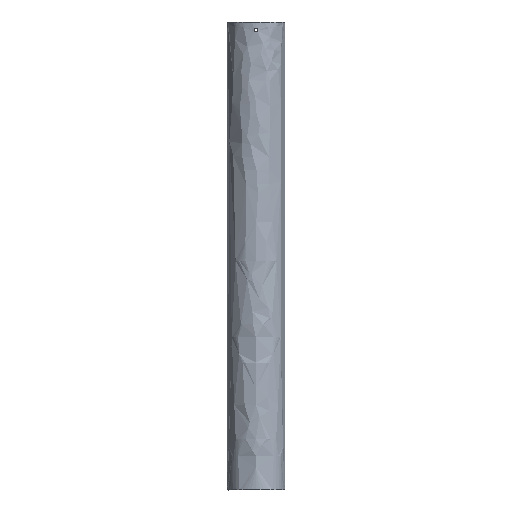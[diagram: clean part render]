
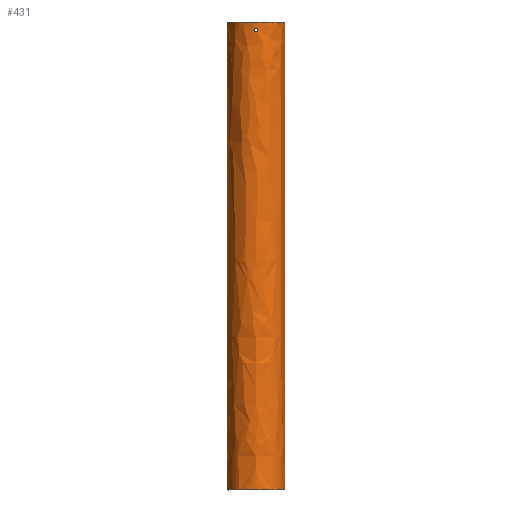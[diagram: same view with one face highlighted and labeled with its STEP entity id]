
A CAD part, left-side view. The second image highlights one B-rep face of the part: STEP entity #431.
In plain terms, the highlighted free-form (B-spline) face has degree [2, 1] with [9, 2] control points.
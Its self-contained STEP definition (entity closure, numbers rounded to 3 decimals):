
#47=FACE_BOUND('',#852,.T.);
#90=B_SPLINE_CURVE_WITH_KNOTS('',1,(#4169,#4170),.UNSPECIFIED.,.F.,.F.,
(2,2),(0.,450.),.UNSPECIFIED.);
#91=B_SPLINE_CURVE_WITH_KNOTS('',1,(#4176,#4177),.UNSPECIFIED.,.F.,.F.,
(2,2),(0.,450.),.UNSPECIFIED.);
#92=B_SPLINE_CURVE_WITH_KNOTS('',3,(#4188,#4189,#4190,#4191,#4192,#4193,
#4194,#4195,#4196,#4197,#4198,#4199,#4200,#4201,#4202,#4203,#4204,#4205,
#4206,#4207,#4208,#4209,#4210,#4211,#4212,#4213,#4214,#4215,#4216,#4217),
 .UNSPECIFIED.,.F.,.F.,(4,2,2,2,2,2,2,2,2,2,2,2,2,2,4),(0.,0.335,
0.67,1.004,1.339,1.674,2.009,
2.344,2.678,3.348,4.018,4.352,
4.687,5.022,5.357),.UNSPECIFIED.);
#93=B_SPLINE_CURVE_WITH_KNOTS('',3,(#4218,#4219,#4220,#4221,#4222,#4223,
#4224,#4225,#4226,#4227,#4228,#4229,#4230,#4231,#4232,#4233,#4234,#4235,
#4236,#4237,#4238,#4239,#4240,#4241),.UNSPECIFIED.,.F.,.F.,(4,2,2,2,2,2,
2,2,2,2,2,4),(0.,0.671,1.006,1.342,2.012,
2.683,3.019,3.354,3.69,4.025,
4.696,5.367),.UNSPECIFIED.);
#431=ADVANCED_FACE('',(#639,#47),#3322,.T.);
#639=FACE_OUTER_BOUND('',#851,.T.);
#851=EDGE_LOOP('',(#1122,#1123,#1124,#1125));
#852=EDGE_LOOP('',(#1126,#1127));
#1122=ORIENTED_EDGE('',*,*,#2163,.F.);
#1123=ORIENTED_EDGE('',*,*,#2166,.F.);
#1124=ORIENTED_EDGE('',*,*,#2165,.F.);
#1125=ORIENTED_EDGE('',*,*,#2167,.T.);
#1126=ORIENTED_EDGE('',*,*,#2169,.T.);
#1127=ORIENTED_EDGE('',*,*,#2168,.T.);
#2163=EDGE_CURVE('',#2902,#2903,#90,.T.);
#2165=EDGE_CURVE('',#2904,#2901,#91,.T.);
#2166=EDGE_CURVE('',#2901,#2902,#2685,.T.);
#2167=EDGE_CURVE('',#2904,#2903,#2686,.T.);
#2168=EDGE_CURVE('',#2890,#2889,#92,.T.);
#2169=EDGE_CURVE('',#2889,#2890,#93,.T.);
#2685=(
BOUNDED_CURVE()
B_SPLINE_CURVE(2,(#4178,#4179,#4180,#4181,#4182),.UNSPECIFIED.,.F.,.F.)
B_SPLINE_CURVE_WITH_KNOTS((3,2,3),(-86.394,-43.197,
0.),.UNSPECIFIED.)
CURVE()
GEOMETRIC_REPRESENTATION_ITEM()
RATIONAL_B_SPLINE_CURVE((1.,0.707,1.,0.707,1.))
REPRESENTATION_ITEM('')
);
#2686=(
BOUNDED_CURVE()
B_SPLINE_CURVE(2,(#4183,#4184,#4185,#4186,#4187),.UNSPECIFIED.,.F.,.F.)
B_SPLINE_CURVE_WITH_KNOTS((3,2,3),(0.,43.197,86.394),
 .UNSPECIFIED.)
CURVE()
GEOMETRIC_REPRESENTATION_ITEM()
RATIONAL_B_SPLINE_CURVE((1.,0.707,1.,0.707,1.))
REPRESENTATION_ITEM('')
);
#2889=VERTEX_POINT('',#4018);
#2890=VERTEX_POINT('',#4019);
#2901=VERTEX_POINT('',#4030);
#2902=VERTEX_POINT('',#4031);
#2903=VERTEX_POINT('',#4032);
#2904=VERTEX_POINT('',#4033);
#3322=(
BOUNDED_SURFACE()
B_SPLINE_SURFACE(2,1,((#3946,#3947),(#3948,#3949),(#3950,#3951),(#3952,
#3953),(#3954,#3955),(#3956,#3957),(#3958,#3959),(#3960,#3961),(#3962,#3963)),
 .UNSPECIFIED.,.T.,.F.,.F.)
B_SPLINE_SURFACE_WITH_KNOTS((3,2,2,2,3),(2,2),(0.,43.197,86.394,
129.591,172.788),(0.,540.),.UNSPECIFIED.)
GEOMETRIC_REPRESENTATION_ITEM()
RATIONAL_B_SPLINE_SURFACE(((1.,1.),(0.707,0.707),
(1.,1.),(0.707,0.707),(1.,1.),(0.707,
0.707),(1.,1.),(0.707,0.707),(1.,1.)))
REPRESENTATION_ITEM('')
SURFACE()
);
#3946=CARTESIAN_POINT('',(27.5,270.,0.));
#3947=CARTESIAN_POINT('',(27.5,-270.,0.));
#3948=CARTESIAN_POINT('',(27.5,270.,27.5));
#3949=CARTESIAN_POINT('',(27.5,-270.,27.5));
#3950=CARTESIAN_POINT('',(0.,270.,27.5));
#3951=CARTESIAN_POINT('',(0.,-270.,27.5));
#3952=CARTESIAN_POINT('',(-27.5,270.,27.5));
#3953=CARTESIAN_POINT('',(-27.5,-270.,27.5));
#3954=CARTESIAN_POINT('',(-27.5,270.,0.));
#3955=CARTESIAN_POINT('',(-27.5,-270.,0.));
#3956=CARTESIAN_POINT('',(-27.5,270.,-27.5));
#3957=CARTESIAN_POINT('',(-27.5,-270.,-27.5));
#3958=CARTESIAN_POINT('',(0.,270.,-27.5));
#3959=CARTESIAN_POINT('',(0.,-270.,-27.5));
#3960=CARTESIAN_POINT('',(27.5,270.,-27.5));
#3961=CARTESIAN_POINT('',(27.5,-270.,-27.5));
#3962=CARTESIAN_POINT('',(27.5,270.,0.));
#3963=CARTESIAN_POINT('',(27.5,-270.,0.));
#4018=CARTESIAN_POINT('',(-27.447,217.4,1.7));
#4019=CARTESIAN_POINT('',(-27.447,217.4,-1.7));
#4030=CARTESIAN_POINT('',(0.,225.,-27.5));
#4031=CARTESIAN_POINT('',(0.,225.,27.5));
#4032=CARTESIAN_POINT('',(0.,-225.,27.5));
#4033=CARTESIAN_POINT('',(0.,-225.,-27.5));
#4169=CARTESIAN_POINT('',(0.,225.,27.5));
#4170=CARTESIAN_POINT('',(0.,-225.,27.5));
#4176=CARTESIAN_POINT('',(0.,-225.,-27.5));
#4177=CARTESIAN_POINT('',(0.,225.,-27.5));
#4178=CARTESIAN_POINT('',(0.,225.,-27.5));
#4179=CARTESIAN_POINT('',(-27.5,225.,-27.5));
#4180=CARTESIAN_POINT('',(-27.5,225.,0.));
#4181=CARTESIAN_POINT('',(-27.5,225.,27.5));
#4182=CARTESIAN_POINT('',(0.,225.,27.5));
#4183=CARTESIAN_POINT('',(0.,-225.,-27.5));
#4184=CARTESIAN_POINT('',(-27.5,-225.,-27.5));
#4185=CARTESIAN_POINT('',(-27.5,-225.,0.));
#4186=CARTESIAN_POINT('',(-27.5,-225.,27.5));
#4187=CARTESIAN_POINT('',(0.,-225.,27.5));
#4188=CARTESIAN_POINT('',(-27.447,217.4,-1.7));
#4189=CARTESIAN_POINT('',(-27.447,217.511,-1.7));
#4190=CARTESIAN_POINT('',(-27.448,217.624,-1.689));
#4191=CARTESIAN_POINT('',(-27.451,217.842,-1.645));
#4192=CARTESIAN_POINT('',(-27.453,217.948,-1.613));
#4193=CARTESIAN_POINT('',(-27.458,218.153,-1.528));
#4194=CARTESIAN_POINT('',(-27.46,218.253,-1.475));
#4195=CARTESIAN_POINT('',(-27.467,218.437,-1.352));
#4196=CARTESIAN_POINT('',(-27.47,218.523,-1.281));
#4197=CARTESIAN_POINT('',(-27.477,218.682,-1.122));
#4198=CARTESIAN_POINT('',(-27.481,218.752,-1.037));
#4199=CARTESIAN_POINT('',(-27.487,218.875,-0.852));
#4200=CARTESIAN_POINT('',(-27.49,218.928,-0.753));
#4201=CARTESIAN_POINT('',(-27.495,219.013,-0.547));
#4202=CARTESIAN_POINT('',(-27.497,219.046,-0.441));
#4203=CARTESIAN_POINT('',(-27.499,219.089,-0.223));
#4204=CARTESIAN_POINT('',(-27.5,219.1,-0.11));
#4205=CARTESIAN_POINT('',(-27.5,219.1,0.223));
#4206=CARTESIAN_POINT('',(-27.497,219.055,0.446));
#4207=CARTESIAN_POINT('',(-27.487,218.886,0.856));
#4208=CARTESIAN_POINT('',(-27.481,218.759,1.045));
#4209=CARTESIAN_POINT('',(-27.47,218.524,1.28));
#4210=CARTESIAN_POINT('',(-27.467,218.436,1.352));
#4211=CARTESIAN_POINT('',(-27.46,218.251,1.476));
#4212=CARTESIAN_POINT('',(-27.458,218.154,1.528));
#4213=CARTESIAN_POINT('',(-27.453,217.948,1.613));
#4214=CARTESIAN_POINT('',(-27.451,217.84,1.646));
#4215=CARTESIAN_POINT('',(-27.448,217.623,1.689));
#4216=CARTESIAN_POINT('',(-27.447,217.512,1.7));
#4217=CARTESIAN_POINT('',(-27.447,217.4,1.7));
#4218=CARTESIAN_POINT('',(-27.447,217.4,1.7));
#4219=CARTESIAN_POINT('',(-27.447,217.176,1.7));
#4220=CARTESIAN_POINT('',(-27.45,216.955,1.656));
#4221=CARTESIAN_POINT('',(-27.458,216.646,1.528));
#4222=CARTESIAN_POINT('',(-27.46,216.548,1.475));
#4223=CARTESIAN_POINT('',(-27.467,216.364,1.352));
#4224=CARTESIAN_POINT('',(-27.47,216.276,1.28));
#4225=CARTESIAN_POINT('',(-27.481,216.041,1.045));
#4226=CARTESIAN_POINT('',(-27.487,215.914,0.856));
#4227=CARTESIAN_POINT('',(-27.497,215.745,0.447));
#4228=CARTESIAN_POINT('',(-27.5,215.7,0.223));
#4229=CARTESIAN_POINT('',(-27.5,215.7,-0.114));
#4230=CARTESIAN_POINT('',(-27.499,215.711,-0.224));
#4231=CARTESIAN_POINT('',(-27.497,215.755,-0.441));
#4232=CARTESIAN_POINT('',(-27.495,215.787,-0.549));
#4233=CARTESIAN_POINT('',(-27.49,215.873,-0.755));
#4234=CARTESIAN_POINT('',(-27.487,215.925,-0.853));
#4235=CARTESIAN_POINT('',(-27.481,216.049,-1.037));
#4236=CARTESIAN_POINT('',(-27.477,216.12,-1.125));
#4237=CARTESIAN_POINT('',(-27.467,216.356,-1.36));
#4238=CARTESIAN_POINT('',(-27.46,216.545,-1.486));
#4239=CARTESIAN_POINT('',(-27.45,216.955,-1.655));
#4240=CARTESIAN_POINT('',(-27.447,217.178,-1.7));
#4241=CARTESIAN_POINT('',(-27.447,217.4,-1.7));
